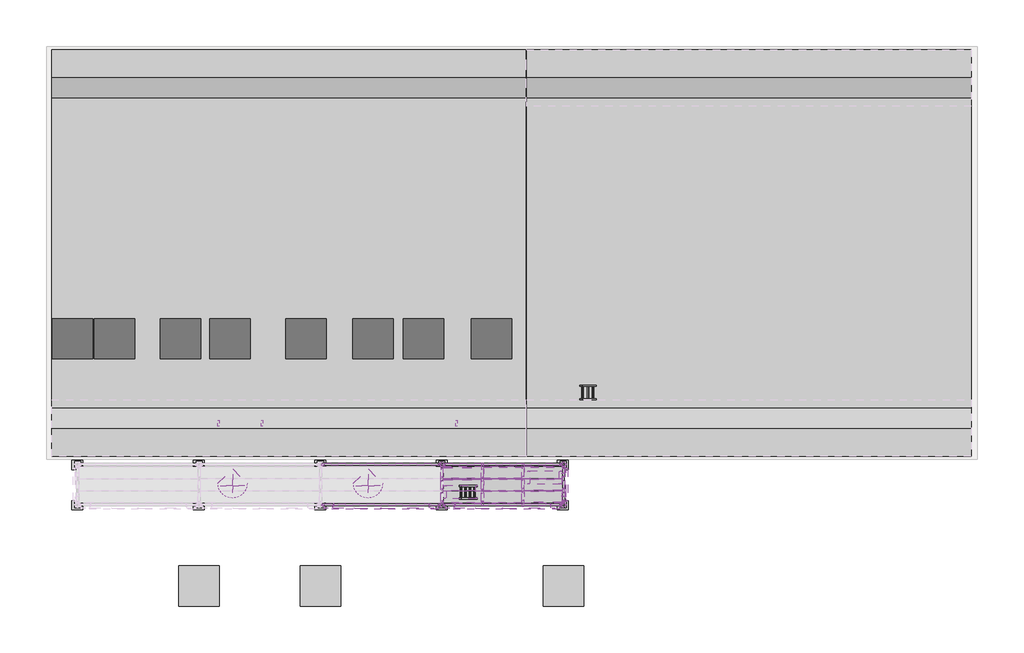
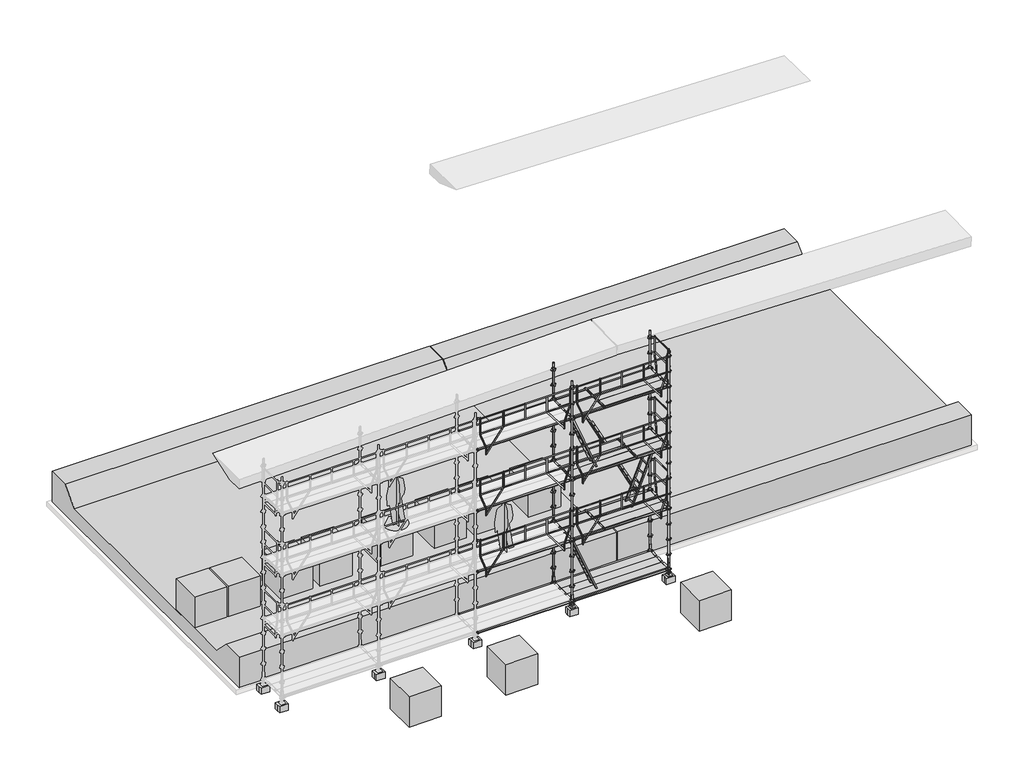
# One storey, part 2 of 2: 110 proxies.
"""IFC4 building model written with IfcOpenShell, lengths in millimetres."""

from ifc_helpers import new_model, si_unit, origin, place, context, project, spatial, transform, mapped, element, save
from components import generic_models_23898a6b, generic_models_8fa42f42, generic_models_b355b610, generic_models_7a2b83c8, specialty_equipment_0b5c82ff, specialty_equipment_7a4cda6e, specialty_equipment_5705e18d, specialty_equipment_8377ca54, specialty_equipment_3c3e35c8, entourage_6f5007d1, famille1_9b6e70c5, single_ladder_ebb12d60, ap100_b654b57a, ap200_66a3c585, l100_80f0c97a, l300_ff75a488, p100030_06e32ebb, p200030_875206cd, p300030_d1f45bb2, ti100_9a57c83d, vp_4bdc5f6d

model = new_model("IFC4")

# Units and contexts
model_context = context("Model", 3, world=origin())
ifc_project = project(units=[si_unit("LENGTHUNIT", "METRE", prefix="MILLI")], contexts=[model_context])

# Site, building, storey
site = spatial("IfcSite", under=ifc_project)
building = spatial("IfcBuilding", under=site)
storey = spatial("IfcBuildingStorey", under=building, Name="Niveau bas traverse inférieure", Elevation=0.0)

# Proxies
placement = place(None, origin())
generic_models_shape = generic_models_23898a6b(model_context)
element("IfcBuildingElementProxy", 1, Name="Traverse inférieur avec gousset : Traverse inférieur avec gousset 11.71m", ObjectType="Traverse inférieur avec gousset : Traverse inférieur avec gousset 11.71m", at=placement, inside=storey, context=model_context, shape_type="MappedRepresentation", body=[
    mapped(generic_models_shape, transform((-11710.0, 525.0000072, 0.0), x_axis=(0.0, 1.0, 0.0), y_axis=(-1.0, 0.0, 0.0), z_axis=(0.0, 0.0, 1.0))),
])
generic_models_2_shape = generic_models_8fa42f42(model_context)
element("IfcBuildingElementProxy", 2, Name="Traverse inférieur avec gousset : Traverse inférieur avec gousset 10.99", ObjectType="Traverse inférieur avec gousset : Traverse inférieur avec gousset 10.99", at=placement, inside=storey, context=model_context, shape_type="MappedRepresentation", body=[
    mapped(generic_models_2_shape, transform((20.0, 525.0000072, 0.0), x_axis=(0.0, 1.0, 0.0), y_axis=(-1.0, 0.0, 0.0), z_axis=(0.0, 0.0, 1.0))),
])
generic_models_3_shape = generic_models_b355b610(model_context)
element("IfcBuildingElementProxy", 3, Name="Bouchon de protection : Bouchon de protection", ObjectType="Bouchon de protection : Bouchon de protection", at=placement, inside=storey, context=model_context, shape_type="MappedRepresentation", body=[
    mapped(generic_models_3_shape, transform((-7602.0440211, -3379.3326962, 2917.0026756), x_axis=(1.0, 0.0, 0.0), y_axis=(0.0, 1.0, 0.0), z_axis=(0.0, 0.0, 1.0))),
])
element("IfcBuildingElementProxy", 4, Name="Bouchon de protection : Bouchon de protection", ObjectType="Bouchon de protection : Bouchon de protection", at=placement, inside=storey, context=model_context, shape_type="MappedRepresentation", body=[
    mapped(generic_models_3_shape, transform((-6522.0440211, -3379.3326962, 2917.0026756), x_axis=(1.0, 0.0, 0.0), y_axis=(0.0, 1.0, 0.0), z_axis=(0.0, 0.0, 1.0))),
])
element("IfcBuildingElementProxy", 5, Name="Bouchon de protection : Bouchon de protection", ObjectType="Bouchon de protection : Bouchon de protection", at=placement, inside=storey, context=model_context, shape_type="MappedRepresentation", body=[
    mapped(generic_models_3_shape, transform((-1722.0440211, -3379.3326962, 2917.0026756), x_axis=(1.0, 0.0, 0.0), y_axis=(0.0, 1.0, 0.0), z_axis=(0.0, 0.0, 1.0))),
])
generic_models_4_shape = generic_models_7a2b83c8(model_context)
element("IfcBuildingElementProxy", 6, Name="Camarteaux : Camarteaux", ObjectType="Camarteaux : Camarteaux", at=placement, inside=storey, context=model_context, shape_type="MappedRepresentation", body=[
    mapped(generic_models_4_shape, transform((-8070.8475353, -5699.9999928, -200.0), x_axis=(1.0, 0.0, 0.0), y_axis=(0.0, 1.0, 0.0), z_axis=(0.0, 0.0, 1.0))),
])
element("IfcBuildingElementProxy", 7, Name="Camarteaux : Camarteaux", ObjectType="Camarteaux : Camarteaux", at=placement, inside=storey, context=model_context, shape_type="MappedRepresentation", body=[
    mapped(generic_models_4_shape, transform((-11070.8475353, -5699.9999928, -200.0), x_axis=(1.0, 0.0, 0.0), y_axis=(0.0, 1.0, 0.0), z_axis=(0.0, 0.0, 1.0))),
])
element("IfcBuildingElementProxy", 8, Name="Camarteaux : Camarteaux", ObjectType="Camarteaux : Camarteaux", at=placement, inside=storey, context=model_context, shape_type="MappedRepresentation", body=[
    mapped(generic_models_4_shape, transform((-5070.8475353, -5699.9999928, -200.0), x_axis=(1.0, 0.0, 0.0), y_axis=(0.0, 1.0, 0.0), z_axis=(0.0, 0.0, 1.0))),
])
element("IfcBuildingElementProxy", 9, Name="Camarteaux : Camarteaux", ObjectType="Camarteaux : Camarteaux", at=placement, inside=storey, context=model_context, shape_type="MappedRepresentation", body=[
    mapped(generic_models_4_shape, transform((-2070.8475353, -5699.9999928, -200.0), x_axis=(1.0, 0.0, 0.0), y_axis=(0.0, 1.0, 0.0), z_axis=(0.0, 0.0, 1.0))),
])
element("IfcBuildingElementProxy", 10, Name="Camarteaux : Camarteaux", ObjectType="Camarteaux : Camarteaux", at=placement, inside=storey, context=model_context, shape_type="MappedRepresentation", body=[
    mapped(generic_models_4_shape, transform((929.1524647, -5699.9999928, -200.0), x_axis=(1.0, 0.0, 0.0), y_axis=(0.0, 1.0, 0.0), z_axis=(0.0, 0.0, 1.0))),
])
element("IfcBuildingElementProxy", 11, Name="Camarteaux : Camarteaux", ObjectType="Camarteaux : Camarteaux", at=placement, inside=storey, context=model_context, shape_type="MappedRepresentation", body=[
    mapped(generic_models_4_shape, transform((-11070.8475353, -4699.9999928, -200.0), x_axis=(1.0, 0.0, 0.0), y_axis=(0.0, 1.0, 0.0), z_axis=(0.0, 0.0, 1.0))),
])
element("IfcBuildingElementProxy", 12, Name="Camarteaux : Camarteaux", ObjectType="Camarteaux : Camarteaux", at=placement, inside=storey, context=model_context, shape_type="MappedRepresentation", body=[
    mapped(generic_models_4_shape, transform((-8070.8475353, -4699.9999928, -200.0), x_axis=(1.0, 0.0, 0.0), y_axis=(0.0, 1.0, 0.0), z_axis=(0.0, 0.0, 1.0))),
])
element("IfcBuildingElementProxy", 13, Name="Camarteaux : Camarteaux", ObjectType="Camarteaux : Camarteaux", at=placement, inside=storey, context=model_context, shape_type="MappedRepresentation", body=[
    mapped(generic_models_4_shape, transform((-5070.8475353, -4699.9999928, -200.0), x_axis=(1.0, 0.0, 0.0), y_axis=(0.0, 1.0, 0.0), z_axis=(0.0, 0.0, 1.0))),
])
element("IfcBuildingElementProxy", 14, Name="Camarteaux : Camarteaux", ObjectType="Camarteaux : Camarteaux", at=placement, inside=storey, context=model_context, shape_type="MappedRepresentation", body=[
    mapped(generic_models_4_shape, transform((-2070.8475353, -4699.9999928, -200.0), x_axis=(1.0, 0.0, 0.0), y_axis=(0.0, 1.0, 0.0), z_axis=(0.0, 0.0, 1.0))),
])
element("IfcBuildingElementProxy", 15, Name="Camarteaux : Camarteaux", ObjectType="Camarteaux : Camarteaux", at=placement, inside=storey, context=model_context, shape_type="MappedRepresentation", body=[
    mapped(generic_models_4_shape, transform((929.1524647, -4699.9999928, -200.0), x_axis=(1.0, 0.0, 0.0), y_axis=(0.0, 1.0, 0.0), z_axis=(0.0, 0.0, 1.0))),
])
specialty_equipment_shape = specialty_equipment_0b5c82ff(model_context)
element("IfcBuildingElementProxy", 16, Name="MILLS_ACRAM_EMBASE : Embase", ObjectType="MILLS_ACRAM_EMBASE : Embase", at=placement, inside=storey, context=model_context, shape_type="MappedRepresentation", body=[
    mapped(specialty_equipment_shape, transform((-1991.5690641, -4699.9999928, 185.0), x_axis=(1.0, 0.0, 0.0), y_axis=(0.0, 1.0, 0.0), z_axis=(0.0, 0.0, 1.0))),
])
element("IfcBuildingElementProxy", 17, Name="MILLS_ACRAM_EMBASE : Embase", ObjectType="MILLS_ACRAM_EMBASE : Embase", at=placement, inside=storey, context=model_context, shape_type="MappedRepresentation", body=[
    mapped(specialty_equipment_shape, transform((1008.4309359, -4699.9999928, 185.0), x_axis=(1.0, 0.0, 0.0), y_axis=(0.0, 1.0, 0.0), z_axis=(0.0, 0.0, 1.0))),
])
element("IfcBuildingElementProxy", 18, Name="MILLS_ACRAM_EMBASE : Embase", ObjectType="MILLS_ACRAM_EMBASE : Embase", at=placement, inside=storey, context=model_context, shape_type="MappedRepresentation", body=[
    mapped(specialty_equipment_shape, transform((1008.4309359, -5699.9999928, 185.0), x_axis=(1.0, 0.0, 0.0), y_axis=(0.0, 1.0, 0.0), z_axis=(0.0, 0.0, 1.0))),
])
element("IfcBuildingElementProxy", 19, Name="MILLS_ACRAM_EMBASE : Embase", ObjectType="MILLS_ACRAM_EMBASE : Embase", at=placement, inside=storey, context=model_context, shape_type="MappedRepresentation", body=[
    mapped(specialty_equipment_shape, transform((-1991.5690641, -5699.9999928, 185.0), x_axis=(1.0, 0.0, 0.0), y_axis=(0.0, 1.0, 0.0), z_axis=(0.0, 0.0, 1.0))),
])
specialty_equipment_2_shape = specialty_equipment_7a4cda6e(model_context)
element("IfcBuildingElementProxy", 20, Name="MILLS_ACRAM_CADRE_A_TRAPPE : trappe", ObjectType="MILLS_ACRAM_CADRE_A_TRAPPE : trappe", at=placement, inside=storey, context=model_context, shape_type="MappedRepresentation", body=[
    mapped(specialty_equipment_2_shape, transform((-1991.5690641, -5695.9907516, 2189.0), x_axis=(1.0, 0.0, 0.0), y_axis=(0.0, 1.0, 0.0), z_axis=(0.0, 0.0, 1.0))),
])
element("IfcBuildingElementProxy", 21, Name="MILLS_ACRAM_CADRE_A_TRAPPE : trappe", ObjectType="MILLS_ACRAM_CADRE_A_TRAPPE : trappe", at=placement, inside=storey, context=model_context, shape_type="MappedRepresentation", body=[
    mapped(specialty_equipment_2_shape, transform((849.8739935, -4714.9999928, 4189.0), x_axis=(-1.0, 0.0, 0.0), y_axis=(0.0, -1.0, 0.0), z_axis=(0.0, 0.0, 1.0))),
])
element("IfcBuildingElementProxy", 22, Name="MILLS_ACRAM_CADRE_A_TRAPPE : trappe", ObjectType="MILLS_ACRAM_CADRE_A_TRAPPE : trappe", at=placement, inside=storey, context=model_context, shape_type="MappedRepresentation", body=[
    mapped(specialty_equipment_2_shape, transform((-1991.5832772, -5689.9999928, 6189.0), x_axis=(1.0, 0.0, 0.0), y_axis=(0.0, 1.0, 0.0), z_axis=(0.0, 0.0, 1.0))),
])
specialty_equipment_3_shape = specialty_equipment_5705e18d(model_context)
element("IfcBuildingElementProxy", 23, Name="MILLS_ACRAM_ECHELLE_210 : echelle210", ObjectType="MILLS_ACRAM_ECHELLE_210 : echelle210", at=placement, inside=storey, context=model_context, shape_type="MappedRepresentation", body=[
    mapped(specialty_equipment_3_shape, transform((-2082.4389773, -5695.9907516, 2189.0), x_axis=(1.0, 0.0, 0.0), y_axis=(0.0, 1.0, 0.0), z_axis=(0.0, 0.0, 1.0))),
])
element("IfcBuildingElementProxy", 24, Name="MILLS_ACRAM_ECHELLE_210 : echelle210", ObjectType="MILLS_ACRAM_ECHELLE_210 : echelle210", at=placement, inside=storey, context=model_context, shape_type="MappedRepresentation", body=[
    mapped(specialty_equipment_3_shape, transform((940.7439066, -4714.9999928, 4189.0), x_axis=(-1.0, 0.0, 0.0), y_axis=(0.0, -1.0, 0.0), z_axis=(0.0, 0.0, 1.0))),
])
element("IfcBuildingElementProxy", 25, Name="MILLS_ACRAM_ECHELLE_210 : echelle210", ObjectType="MILLS_ACRAM_ECHELLE_210 : echelle210", at=placement, inside=storey, context=model_context, shape_type="MappedRepresentation", body=[
    mapped(specialty_equipment_3_shape, transform((-2082.4531904, -5689.9999928, 6189.0), x_axis=(1.0, 0.0, 0.0), y_axis=(0.0, 1.0, 0.0), z_axis=(0.0, 0.0, 1.0))),
])
specialty_equipment_4_shape = specialty_equipment_8377ca54(model_context)
element("IfcBuildingElementProxy", 26, Name="MILLS_TOEC_GARDE_CORPS_MDS : GCMDS300EE", ObjectType="MILLS_TOEC_GARDE_CORPS_MDS : GCMDS300EE", at=placement, inside=storey, context=model_context, shape_type="MappedRepresentation", body=[
    mapped(specialty_equipment_4_shape, transform((-1865.8409084, -5688.8999928, 3175.0), x_axis=(1.0, 0.0, 0.0), y_axis=(0.0, 1.0, 0.0), z_axis=(0.0, 0.0, 1.0))),
])
element("IfcBuildingElementProxy", 27, Name="MILLS_TOEC_GARDE_CORPS_MDS : GCMDS300EE", ObjectType="MILLS_TOEC_GARDE_CORPS_MDS : GCMDS300EE", at=placement, inside=storey, context=model_context, shape_type="MappedRepresentation", body=[
    mapped(specialty_equipment_4_shape, transform((1134.1733048, -5688.8999928, 3175.0), x_axis=(1.0, 0.0, 0.0), y_axis=(0.0, 1.0, 0.0), z_axis=(0.0, 0.0, 1.0))),
])
element("IfcBuildingElementProxy", 28, Name="MILLS_TOEC_GARDE_CORPS_MDS : GCMDS300EE", ObjectType="MILLS_TOEC_GARDE_CORPS_MDS : GCMDS300EE", at=placement, inside=storey, context=model_context, shape_type="MappedRepresentation", body=[
    mapped(specialty_equipment_4_shape, transform((-1865.798269, -5688.8999928, 5175.0), x_axis=(1.0, 0.0, 0.0), y_axis=(0.0, 1.0, 0.0), z_axis=(0.0, 0.0, 1.0))),
])
element("IfcBuildingElementProxy", 29, Name="MILLS_TOEC_GARDE_CORPS_MDS : GCMDS300EE", ObjectType="MILLS_TOEC_GARDE_CORPS_MDS : GCMDS300EE", at=placement, inside=storey, context=model_context, shape_type="MappedRepresentation", body=[
    mapped(specialty_equipment_4_shape, transform((1134.2443703, -5688.8999928, 5175.0), x_axis=(1.0, 0.0, 0.0), y_axis=(0.0, 1.0, 0.0), z_axis=(0.0, 0.0, 1.0))),
])
element("IfcBuildingElementProxy", 30, Name="MILLS_TOEC_GARDE_CORPS_MDS : GCMDS300EE", ObjectType="MILLS_TOEC_GARDE_CORPS_MDS : GCMDS300EE", at=placement, inside=storey, context=model_context, shape_type="MappedRepresentation", body=[
    mapped(specialty_equipment_4_shape, transform((-1865.8551215, -5688.8999928, 7175.0), x_axis=(1.0, 0.0, 0.0), y_axis=(0.0, 1.0, 0.0), z_axis=(0.0, 0.0, 1.0))),
])
element("IfcBuildingElementProxy", 31, Name="MILLS_TOEC_GARDE_CORPS_MDS : GCMDS300EE", ObjectType="MILLS_TOEC_GARDE_CORPS_MDS : GCMDS300EE", at=placement, inside=storey, context=model_context, shape_type="MappedRepresentation", body=[
    mapped(specialty_equipment_4_shape, transform((1134.1448785, -5688.8999928, 7175.0), x_axis=(1.0, 0.0, 0.0), y_axis=(0.0, 1.0, 0.0), z_axis=(0.0, 0.0, 1.0))),
])
specialty_equipment_5_shape = specialty_equipment_3c3e35c8(model_context)
element("IfcBuildingElementProxy", 32, Name="MILLS_TOEC_GARDE_CORPS_MDS : GCMDS100EE", ObjectType="MILLS_TOEC_GARDE_CORPS_MDS : GCMDS100EE", at=placement, inside=storey, context=model_context, shape_type="MappedRepresentation", body=[
    mapped(specialty_equipment_5_shape, transform((918.0524647, -2494.9791527, 3175.0), x_axis=(0.0, 1.0, 0.0), y_axis=(-1.0, 0.0, 0.0), z_axis=(0.0, 0.0, 1.0))),
])
element("IfcBuildingElementProxy", 33, Name="MILLS_TOEC_GARDE_CORPS_MDS : GCMDS100EE", ObjectType="MILLS_TOEC_GARDE_CORPS_MDS : GCMDS100EE", at=placement, inside=storey, context=model_context, shape_type="MappedRepresentation", body=[
    mapped(specialty_equipment_5_shape, transform((918.0382516, -2494.9791527, 5175.0), x_axis=(0.0, 1.0, 0.0), y_axis=(-1.0, 0.0, 0.0), z_axis=(0.0, 0.0, 1.0))),
])
element("IfcBuildingElementProxy", 34, Name="MILLS_TOEC_GARDE_CORPS_MDS : GCMDS100EE", ObjectType="MILLS_TOEC_GARDE_CORPS_MDS : GCMDS100EE", at=placement, inside=storey, context=model_context, shape_type="MappedRepresentation", body=[
    mapped(specialty_equipment_5_shape, transform((918.0382516, -2494.9791527, 7175.0), x_axis=(0.0, 1.0, 0.0), y_axis=(-1.0, 0.0, 0.0), z_axis=(0.0, 0.0, 1.0))),
])
entourage_shape = entourage_6f5007d1(model_context)
element("IfcBuildingElementProxy", 35, Name="RPC Homme : Alex", ObjectType="RPC Homme : Alex", at=placement, inside=storey, context=model_context, shape_type="MappedRepresentation", body=[
    mapped(entourage_shape, transform((-7245.3936888, -5170.1799631, 4245.0), x_axis=(1.0, 0.0, 0.0), y_axis=(0.0, 1.0, 0.0), z_axis=(0.0, 0.0, 1.0))),
])
element("IfcBuildingElementProxy", 36, Name="RPC Homme : Alex", ObjectType="RPC Homme : Alex", at=placement, inside=storey, context=model_context, shape_type="MappedRepresentation", body=[
    mapped(entourage_shape, transform((-3896.5936888, -5170.1799631, 2209.3393401), x_axis=(1.0, 0.0, 0.0), y_axis=(0.0, 1.0, 0.0), z_axis=(0.0, 0.0, 1.0))),
])
famille1_shape = famille1_9b6e70c5(model_context)
element("IfcBuildingElementProxy", 37, Name="Famille1 : Lest béton", ObjectType="Famille1 : Lest béton", at=placement, inside=storey, context=model_context, shape_type="MappedRepresentation", body=[
    mapped(famille1_shape, transform((-673.0931597, -1499.9999928, 500.0), x_axis=(1.0, 0.0, 0.0), y_axis=(0.0, 1.0, 0.0), z_axis=(0.0, 0.0, 1.0))),
])
element("IfcBuildingElementProxy", 38, Name="Famille1 : Lest béton", ObjectType="Famille1 : Lest béton", at=placement, inside=storey, context=model_context, shape_type="MappedRepresentation", body=[
    mapped(famille1_shape, transform((-2356.0538432, -1499.9999928, 500.0), x_axis=(1.0, 0.0, 0.0), y_axis=(0.0, 1.0, 0.0), z_axis=(0.0, 0.0, 1.0))),
])
element("IfcBuildingElementProxy", 39, Name="Famille1 : Lest béton", ObjectType="Famille1 : Lest béton", at=placement, inside=storey, context=model_context, shape_type="MappedRepresentation", body=[
    mapped(famille1_shape, transform((-3603.0538432, -1499.9999928, 500.0), x_axis=(1.0, 0.0, 0.0), y_axis=(0.0, 1.0, 0.0), z_axis=(0.0, 0.0, 1.0))),
])
element("IfcBuildingElementProxy", 40, Name="Famille1 : Lest béton", ObjectType="Famille1 : Lest béton", at=placement, inside=storey, context=model_context, shape_type="MappedRepresentation", body=[
    mapped(famille1_shape, transform((-5261.0538432, -1499.9999928, 500.0), x_axis=(1.0, 0.0, 0.0), y_axis=(0.0, 1.0, 0.0), z_axis=(0.0, 0.0, 1.0))),
])
element("IfcBuildingElementProxy", 41, Name="Famille1 : Lest béton", ObjectType="Famille1 : Lest béton", at=placement, inside=storey, context=model_context, shape_type="MappedRepresentation", body=[
    mapped(famille1_shape, transform((-7143.0538432, -1499.9999928, 500.0), x_axis=(1.0, 0.0, 0.0), y_axis=(0.0, 1.0, 0.0), z_axis=(0.0, 0.0, 1.0))),
])
element("IfcBuildingElementProxy", 42, Name="Famille1 : Lest béton", ObjectType="Famille1 : Lest béton", at=placement, inside=storey, context=model_context, shape_type="MappedRepresentation", body=[
    mapped(famille1_shape, transform((-8363.0538432, -1499.9999928, 500.0), x_axis=(1.0, 0.0, 0.0), y_axis=(0.0, 1.0, 0.0), z_axis=(0.0, 0.0, 1.0))),
])
element("IfcBuildingElementProxy", 43, Name="Famille1 : Lest béton", ObjectType="Famille1 : Lest béton", at=placement, inside=storey, context=model_context, shape_type="MappedRepresentation", body=[
    mapped(famille1_shape, transform((-9991.0538432, -1499.9999928, 500.0), x_axis=(1.0, 0.0, 0.0), y_axis=(0.0, 1.0, 0.0), z_axis=(0.0, 0.0, 1.0))),
])
element("IfcBuildingElementProxy", 44, Name="Famille1 : Lest béton", ObjectType="Famille1 : Lest béton", at=placement, inside=storey, context=model_context, shape_type="MappedRepresentation", body=[
    mapped(famille1_shape, transform((-11031.0538432, -1499.9999928, 500.0), x_axis=(1.0, 0.0, 0.0), y_axis=(0.0, 1.0, 0.0), z_axis=(0.0, 0.0, 1.0))),
])
element("IfcBuildingElementProxy", 45, Name="Famille1 : Lest béton", ObjectType="Famille1 : Lest béton", at=placement, inside=storey, context=model_context, shape_type="MappedRepresentation", body=[
    mapped(famille1_shape, transform((1097.2417812, -7605.2217645, -150.0), x_axis=(1.0, 0.0, 0.0), y_axis=(0.0, 1.0, 0.0), z_axis=(0.0, 0.0, 1.0))),
])
element("IfcBuildingElementProxy", 46, Name="Famille1 : Lest béton", ObjectType="Famille1 : Lest béton", at=placement, inside=storey, context=model_context, shape_type="MappedRepresentation", body=[
    mapped(famille1_shape, transform((-4902.7582188, -7605.2217645, -150.0), x_axis=(1.0, 0.0, 0.0), y_axis=(0.0, 1.0, 0.0), z_axis=(0.0, 0.0, 1.0))),
])
element("IfcBuildingElementProxy", 47, Name="Famille1 : Lest béton", ObjectType="Famille1 : Lest béton", at=placement, inside=storey, context=model_context, shape_type="MappedRepresentation", body=[
    mapped(famille1_shape, transform((-7902.7582188, -7605.2217645, -150.0), x_axis=(1.0, 0.0, 0.0), y_axis=(0.0, 1.0, 0.0), z_axis=(0.0, 0.0, 1.0))),
])
single_ladder_shape = single_ladder_ebb12d60(model_context)
element("IfcBuildingElementProxy", 48, Name="Echelle : Single Ladder", ObjectType="Echelle : Single Ladder", at=placement, inside=storey, context=model_context, shape_type="MappedRepresentation", body=[
    mapped(single_ladder_shape, transform((1735.2581611, -2746.0118169, 473.5), x_axis=(-0.45797210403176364, 0.0, 0.8889665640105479), y_axis=(-0.8889665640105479, 0.0, -0.45797210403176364), z_axis=(0.0, -1.0, 0.0))),
])
ap100_shape = ap100_b654b57a(model_context)
element("IfcBuildingElementProxy", 49, Name="MILLS_ACRAM_POTEAUX  : ap100", ObjectType="MILLS_ACRAM_POTEAUX  : ap100", at=placement, inside=storey, context=model_context, shape_type="MappedRepresentation", body=[
    mapped(ap100_shape, transform((-1991.5832772, -5699.9999928, 6185.0), x_axis=(1.0, 0.0, 0.0), y_axis=(0.0, 1.0, 0.0), z_axis=(0.0, 0.0, 1.0))),
])
element("IfcBuildingElementProxy", 50, Name="MILLS_ACRAM_POTEAUX  : ap100", ObjectType="MILLS_ACRAM_POTEAUX  : ap100", at=placement, inside=storey, context=model_context, shape_type="MappedRepresentation", body=[
    mapped(ap100_shape, transform((-1991.5832772, -4699.9999928, 6185.0), x_axis=(1.0, 0.0, 0.0), y_axis=(0.0, 1.0, 0.0), z_axis=(0.0, 0.0, 1.0))),
])
element("IfcBuildingElementProxy", 51, Name="MILLS_ACRAM_POTEAUX  : ap100", ObjectType="MILLS_ACRAM_POTEAUX  : ap100", at=placement, inside=storey, context=model_context, shape_type="MappedRepresentation", body=[
    mapped(ap100_shape, transform((1008.4593622, -5699.9999928, 6185.0), x_axis=(1.0, 0.0, 0.0), y_axis=(0.0, 1.0, 0.0), z_axis=(0.0, 0.0, 1.0))),
])
element("IfcBuildingElementProxy", 52, Name="MILLS_ACRAM_POTEAUX  : ap100", ObjectType="MILLS_ACRAM_POTEAUX  : ap100", at=placement, inside=storey, context=model_context, shape_type="MappedRepresentation", body=[
    mapped(ap100_shape, transform((1008.4593622, -4699.9999928, 6185.0), x_axis=(1.0, 0.0, 0.0), y_axis=(0.0, 1.0, 0.0), z_axis=(0.0, 0.0, 1.0))),
])
ap200_shape = ap200_66a3c585(model_context)
element("IfcBuildingElementProxy", 53, Name="MILLS_ACRAM_POTEAUX  : ap200", ObjectType="MILLS_ACRAM_POTEAUX  : ap200", at=placement, inside=storey, context=model_context, shape_type="MappedRepresentation", body=[
    mapped(ap200_shape, transform((-1991.5832772, -4699.9999928, 185.0), x_axis=(1.0, 0.0, 0.0), y_axis=(0.0, 1.0, 0.0), z_axis=(0.0, 0.0, 1.0))),
])
element("IfcBuildingElementProxy", 54, Name="MILLS_ACRAM_POTEAUX  : ap200", ObjectType="MILLS_ACRAM_POTEAUX  : ap200", at=placement, inside=storey, context=model_context, shape_type="MappedRepresentation", body=[
    mapped(ap200_shape, transform((-1991.5832772, -5699.9999928, 185.0), x_axis=(1.0, 0.0, 0.0), y_axis=(0.0, 1.0, 0.0), z_axis=(0.0, 0.0, 1.0))),
])
element("IfcBuildingElementProxy", 55, Name="MILLS_ACRAM_POTEAUX  : ap200", ObjectType="MILLS_ACRAM_POTEAUX  : ap200", at=placement, inside=storey, context=model_context, shape_type="MappedRepresentation", body=[
    mapped(ap200_shape, transform((1008.4309359, -5699.9999928, 185.0), x_axis=(1.0, 0.0, 0.0), y_axis=(0.0, 1.0, 0.0), z_axis=(0.0, 0.0, 1.0))),
])
element("IfcBuildingElementProxy", 56, Name="MILLS_ACRAM_POTEAUX  : ap200", ObjectType="MILLS_ACRAM_POTEAUX  : ap200", at=placement, inside=storey, context=model_context, shape_type="MappedRepresentation", body=[
    mapped(ap200_shape, transform((1008.4309359, -4699.9999928, 185.0), x_axis=(1.0, 0.0, 0.0), y_axis=(0.0, 1.0, 0.0), z_axis=(0.0, 0.0, 1.0))),
])
element("IfcBuildingElementProxy", 57, Name="MILLS_ACRAM_POTEAUX  : ap200", ObjectType="MILLS_ACRAM_POTEAUX  : ap200", at=placement, inside=storey, context=model_context, shape_type="MappedRepresentation", body=[
    mapped(ap200_shape, transform((-1991.554851, -4699.9999928, 2185.0), x_axis=(1.0, 0.0, 0.0), y_axis=(0.0, 1.0, 0.0), z_axis=(0.0, 0.0, 1.0))),
])
element("IfcBuildingElementProxy", 58, Name="MILLS_ACRAM_POTEAUX  : ap200", ObjectType="MILLS_ACRAM_POTEAUX  : ap200", at=placement, inside=storey, context=model_context, shape_type="MappedRepresentation", body=[
    mapped(ap200_shape, transform((1008.4309359, -4699.9999928, 2185.0), x_axis=(1.0, 0.0, 0.0), y_axis=(0.0, 1.0, 0.0), z_axis=(0.0, 0.0, 1.0))),
])
element("IfcBuildingElementProxy", 59, Name="MILLS_ACRAM_POTEAUX  : ap200", ObjectType="MILLS_ACRAM_POTEAUX  : ap200", at=placement, inside=storey, context=model_context, shape_type="MappedRepresentation", body=[
    mapped(ap200_shape, transform((1008.4309359, -5699.9999928, 2185.0), x_axis=(1.0, 0.0, 0.0), y_axis=(0.0, 1.0, 0.0), z_axis=(0.0, 0.0, 1.0))),
])
element("IfcBuildingElementProxy", 60, Name="MILLS_ACRAM_POTEAUX  : ap200", ObjectType="MILLS_ACRAM_POTEAUX  : ap200", at=placement, inside=storey, context=model_context, shape_type="MappedRepresentation", body=[
    mapped(ap200_shape, transform((-1991.5832772, -5699.9999928, 2185.0), x_axis=(1.0, 0.0, 0.0), y_axis=(0.0, 1.0, 0.0), z_axis=(0.0, 0.0, 1.0))),
])
element("IfcBuildingElementProxy", 61, Name="MILLS_ACRAM_POTEAUX  : ap200", ObjectType="MILLS_ACRAM_POTEAUX  : ap200", at=placement, inside=storey, context=model_context, shape_type="MappedRepresentation", body=[
    mapped(ap200_shape, transform((-1991.554851, -5699.9999928, 4185.0), x_axis=(1.0, 0.0, 0.0), y_axis=(0.0, 1.0, 0.0), z_axis=(0.0, 0.0, 1.0))),
])
element("IfcBuildingElementProxy", 62, Name="MILLS_ACRAM_POTEAUX  : ap200", ObjectType="MILLS_ACRAM_POTEAUX  : ap200", at=placement, inside=storey, context=model_context, shape_type="MappedRepresentation", body=[
    mapped(ap200_shape, transform((-1991.554851, -4699.9999928, 4185.0), x_axis=(1.0, 0.0, 0.0), y_axis=(0.0, 1.0, 0.0), z_axis=(0.0, 0.0, 1.0))),
])
element("IfcBuildingElementProxy", 63, Name="MILLS_ACRAM_POTEAUX  : ap200", ObjectType="MILLS_ACRAM_POTEAUX  : ap200", at=placement, inside=storey, context=model_context, shape_type="MappedRepresentation", body=[
    mapped(ap200_shape, transform((1008.4593622, -5699.9999928, 4185.0), x_axis=(1.0, 0.0, 0.0), y_axis=(0.0, 1.0, 0.0), z_axis=(0.0, 0.0, 1.0))),
])
element("IfcBuildingElementProxy", 64, Name="MILLS_ACRAM_POTEAUX  : ap200", ObjectType="MILLS_ACRAM_POTEAUX  : ap200", at=placement, inside=storey, context=model_context, shape_type="MappedRepresentation", body=[
    mapped(ap200_shape, transform((1008.4593622, -4699.9999928, 4185.0), x_axis=(1.0, 0.0, 0.0), y_axis=(0.0, 1.0, 0.0), z_axis=(0.0, 0.0, 1.0))),
])
l100_shape = l100_80f0c97a(model_context)
element("IfcBuildingElementProxy", 65, Name="MILLS_ACRAM_LISSES : l100", ObjectType="MILLS_ACRAM_LISSES : l100", at=placement, inside=storey, context=model_context, shape_type="MappedRepresentation", body=[
    mapped(l100_shape, transform((-2070.8475353, -4193.4700293, 185.0), x_axis=(0.0, 1.0, 0.0), y_axis=(-1.0, 0.0, 0.0), z_axis=(0.0, 0.0, 1.0))),
])
element("IfcBuildingElementProxy", 66, Name="MILLS_ACRAM_LISSES : l100", ObjectType="MILLS_ACRAM_LISSES : l100", at=placement, inside=storey, context=model_context, shape_type="MappedRepresentation", body=[
    mapped(l100_shape, transform((929.1524647, -4193.4700293, 185.0), x_axis=(0.0, 1.0, 0.0), y_axis=(-1.0, 0.0, 0.0), z_axis=(0.0, 0.0, 1.0))),
])
element("IfcBuildingElementProxy", 67, Name="MILLS_ACRAM_LISSES : l100", ObjectType="MILLS_ACRAM_LISSES : l100", at=placement, inside=storey, context=model_context, shape_type="MappedRepresentation", body=[
    mapped(l100_shape, transform((-2070.8475353, -4193.4700293, 2185.0), x_axis=(0.0, 1.0, 0.0), y_axis=(-1.0, 0.0, 0.0), z_axis=(0.0, 0.0, 1.0))),
])
element("IfcBuildingElementProxy", 68, Name="MILLS_ACRAM_LISSES : l100", ObjectType="MILLS_ACRAM_LISSES : l100", at=placement, inside=storey, context=model_context, shape_type="MappedRepresentation", body=[
    mapped(l100_shape, transform((929.1524647, -4193.4700293, 2185.0), x_axis=(0.0, 1.0, 0.0), y_axis=(-1.0, 0.0, 0.0), z_axis=(0.0, 0.0, 1.0))),
])
element("IfcBuildingElementProxy", 69, Name="MILLS_ACRAM_LISSES : l100", ObjectType="MILLS_ACRAM_LISSES : l100", at=placement, inside=storey, context=model_context, shape_type="MappedRepresentation", body=[
    mapped(l100_shape, transform((-2070.8475353, -4193.4700293, 4185.0), x_axis=(0.0, 1.0, 0.0), y_axis=(-1.0, 0.0, 0.0), z_axis=(0.0, 0.0, 1.0))),
])
element("IfcBuildingElementProxy", 70, Name="MILLS_ACRAM_LISSES : l100", ObjectType="MILLS_ACRAM_LISSES : l100", at=placement, inside=storey, context=model_context, shape_type="MappedRepresentation", body=[
    mapped(l100_shape, transform((929.1382516, -4193.4700293, 4185.0), x_axis=(0.0, 1.0, 0.0), y_axis=(-1.0, 0.0, 0.0), z_axis=(0.0, 0.0, 1.0))),
])
element("IfcBuildingElementProxy", 71, Name="MILLS_ACRAM_LISSES : l100", ObjectType="MILLS_ACRAM_LISSES : l100", at=placement, inside=storey, context=model_context, shape_type="MappedRepresentation", body=[
    mapped(l100_shape, transform((929.1808909, -4193.4700293, 6185.0), x_axis=(0.0, 1.0, 0.0), y_axis=(-1.0, 0.0, 0.0), z_axis=(0.0, 0.0, 1.0))),
])
element("IfcBuildingElementProxy", 72, Name="MILLS_ACRAM_LISSES : l100", ObjectType="MILLS_ACRAM_LISSES : l100", at=placement, inside=storey, context=model_context, shape_type="MappedRepresentation", body=[
    mapped(l100_shape, transform((-2070.8759616, -4193.4700293, 6185.0), x_axis=(0.0, 1.0, 0.0), y_axis=(-1.0, 0.0, 0.0), z_axis=(0.0, 0.0, 1.0))),
])
l300_shape = l300_ff75a488(model_context)
element("IfcBuildingElementProxy", 73, Name="MILLS_ACRAM_LISSES : l300", ObjectType="MILLS_ACRAM_LISSES : l300", at=placement, inside=storey, context=model_context, shape_type="MappedRepresentation", body=[
    mapped(l300_shape, transform((-3564.3033587, -5699.9999928, 185.0), x_axis=(1.0, 0.0, 0.0), y_axis=(0.0, 1.0, 0.0), z_axis=(0.0, 0.0, 1.0))),
])
element("IfcBuildingElementProxy", 74, Name="MILLS_ACRAM_LISSES : l300", ObjectType="MILLS_ACRAM_LISSES : l300", at=placement, inside=storey, context=model_context, shape_type="MappedRepresentation", body=[
    mapped(l300_shape, transform((-564.3033587, -5699.9999928, 185.0), x_axis=(1.0, 0.0, 0.0), y_axis=(0.0, 1.0, 0.0), z_axis=(0.0, 0.0, 1.0))),
])
element("IfcBuildingElementProxy", 75, Name="MILLS_ACRAM_LISSES : l300", ObjectType="MILLS_ACRAM_LISSES : l300", at=placement, inside=storey, context=model_context, shape_type="MappedRepresentation", body=[
    mapped(l300_shape, transform((-564.3033587, -4699.9999928, 185.0), x_axis=(1.0, 0.0, 0.0), y_axis=(0.0, 1.0, 0.0), z_axis=(0.0, 0.0, 1.0))),
])
element("IfcBuildingElementProxy", 76, Name="MILLS_ACRAM_LISSES : l300", ObjectType="MILLS_ACRAM_LISSES : l300", at=placement, inside=storey, context=model_context, shape_type="MappedRepresentation", body=[
    mapped(l300_shape, transform((-3564.3033587, -4699.9999928, 185.0), x_axis=(1.0, 0.0, 0.0), y_axis=(0.0, 1.0, 0.0), z_axis=(0.0, 0.0, 1.0))),
])
element("IfcBuildingElementProxy", 77, Name="MILLS_ACRAM_LISSES : l300", ObjectType="MILLS_ACRAM_LISSES : l300", at=placement, inside=storey, context=model_context, shape_type="MappedRepresentation", body=[
    mapped(l300_shape, transform((-3564.3033587, -5699.9999928, 2185.0), x_axis=(1.0, 0.0, 0.0), y_axis=(0.0, 1.0, 0.0), z_axis=(0.0, 0.0, 1.0))),
])
element("IfcBuildingElementProxy", 78, Name="MILLS_ACRAM_LISSES : l300", ObjectType="MILLS_ACRAM_LISSES : l300", at=placement, inside=storey, context=model_context, shape_type="MappedRepresentation", body=[
    mapped(l300_shape, transform((-564.3033587, -5699.9999928, 2185.0), x_axis=(1.0, 0.0, 0.0), y_axis=(0.0, 1.0, 0.0), z_axis=(0.0, 0.0, 1.0))),
])
element("IfcBuildingElementProxy", 79, Name="MILLS_ACRAM_LISSES : l300", ObjectType="MILLS_ACRAM_LISSES : l300", at=placement, inside=storey, context=model_context, shape_type="MappedRepresentation", body=[
    mapped(l300_shape, transform((-564.3033587, -4699.9999928, 2185.0), x_axis=(1.0, 0.0, 0.0), y_axis=(0.0, 1.0, 0.0), z_axis=(0.0, 0.0, 1.0))),
])
element("IfcBuildingElementProxy", 80, Name="MILLS_ACRAM_LISSES : l300", ObjectType="MILLS_ACRAM_LISSES : l300", at=placement, inside=storey, context=model_context, shape_type="MappedRepresentation", body=[
    mapped(l300_shape, transform((-3564.3033587, -4699.9999928, 2185.0), x_axis=(1.0, 0.0, 0.0), y_axis=(0.0, 1.0, 0.0), z_axis=(0.0, 0.0, 1.0))),
])
element("IfcBuildingElementProxy", 81, Name="MILLS_ACRAM_LISSES : l300", ObjectType="MILLS_ACRAM_LISSES : l300", at=placement, inside=storey, context=model_context, shape_type="MappedRepresentation", body=[
    mapped(l300_shape, transform((-3564.3033587, -4699.9999928, 4185.0), x_axis=(1.0, 0.0, 0.0), y_axis=(0.0, 1.0, 0.0), z_axis=(0.0, 0.0, 1.0))),
])
element("IfcBuildingElementProxy", 82, Name="MILLS_ACRAM_LISSES : l300", ObjectType="MILLS_ACRAM_LISSES : l300", at=placement, inside=storey, context=model_context, shape_type="MappedRepresentation", body=[
    mapped(l300_shape, transform((-564.3323604, -4699.9999928, 4185.0), x_axis=(1.0, 0.0, 0.0), y_axis=(0.0, 1.0, 0.0), z_axis=(0.0, 0.0, 1.0))),
])
element("IfcBuildingElementProxy", 83, Name="MILLS_ACRAM_LISSES : l300", ObjectType="MILLS_ACRAM_LISSES : l300", at=placement, inside=storey, context=model_context, shape_type="MappedRepresentation", body=[
    mapped(l300_shape, transform((-564.3323604, -5699.9999928, 4185.0), x_axis=(1.0, 0.0, 0.0), y_axis=(0.0, 1.0, 0.0), z_axis=(0.0, 0.0, 1.0))),
])
element("IfcBuildingElementProxy", 84, Name="MILLS_ACRAM_LISSES : l300", ObjectType="MILLS_ACRAM_LISSES : l300", at=placement, inside=storey, context=model_context, shape_type="MappedRepresentation", body=[
    mapped(l300_shape, transform((-3564.3033587, -5699.9999928, 4185.0), x_axis=(1.0, 0.0, 0.0), y_axis=(0.0, 1.0, 0.0), z_axis=(0.0, 0.0, 1.0))),
])
element("IfcBuildingElementProxy", 85, Name="MILLS_ACRAM_LISSES : l300", ObjectType="MILLS_ACRAM_LISSES : l300", at=placement, inside=storey, context=model_context, shape_type="MappedRepresentation", body=[
    mapped(l300_shape, transform((-3564.331785, -4699.9916544, 6185.0), x_axis=(1.0, 0.0, 0.0), y_axis=(0.0, 1.0, 0.0), z_axis=(0.0, 0.0, 1.0))),
])
element("IfcBuildingElementProxy", 86, Name="MILLS_ACRAM_LISSES : l300", ObjectType="MILLS_ACRAM_LISSES : l300", at=placement, inside=storey, context=model_context, shape_type="MappedRepresentation", body=[
    mapped(l300_shape, transform((-564.407582, -4699.9916544, 6185.0), x_axis=(1.0, 0.0, 0.0), y_axis=(0.0, 1.0, 0.0), z_axis=(0.0, 0.0, 1.0))),
])
element("IfcBuildingElementProxy", 87, Name="MILLS_ACRAM_LISSES : l300", ObjectType="MILLS_ACRAM_LISSES : l300", at=placement, inside=storey, context=model_context, shape_type="MappedRepresentation", body=[
    mapped(l300_shape, transform((-564.407582, -5699.9916544, 6185.0), x_axis=(1.0, 0.0, 0.0), y_axis=(0.0, 1.0, 0.0), z_axis=(0.0, 0.0, 1.0))),
])
element("IfcBuildingElementProxy", 88, Name="MILLS_ACRAM_LISSES : l300", ObjectType="MILLS_ACRAM_LISSES : l300", at=placement, inside=storey, context=model_context, shape_type="MappedRepresentation", body=[
    mapped(l300_shape, transform((-3564.4360082, -5699.9916544, 6185.0), x_axis=(1.0, 0.0, 0.0), y_axis=(0.0, 1.0, 0.0), z_axis=(0.0, 0.0, 1.0))),
])
p100030_shape = p100030_06e32ebb(model_context)
element("IfcBuildingElementProxy", 89, Name="MILLS_ACRAM_PLANCHER_ACIER : p100030", ObjectType="MILLS_ACRAM_PLANCHER_ACIER : p100030", at=placement, inside=storey, context=model_context, shape_type="MappedRepresentation", body=[
    mapped(p100030_shape, transform((-126.4785877, -6142.0131497, 2189.0), x_axis=(1.0, 0.0, 0.0), y_axis=(0.0, 1.0, 0.0), z_axis=(0.0, 0.0, 1.0))),
])
element("IfcBuildingElementProxy", 90, Name="MILLS_ACRAM_PLANCHER_ACIER : p100030", ObjectType="MILLS_ACRAM_PLANCHER_ACIER : p100030", at=placement, inside=storey, context=model_context, shape_type="MappedRepresentation", body=[
    mapped(p100030_shape, transform((-1015.2164829, -4268.9775948, 4189.0), x_axis=(-1.0, 0.0, 0.0), y_axis=(0.0, -1.0, 0.0), z_axis=(0.0, 0.0, 1.0))),
])
element("IfcBuildingElementProxy", 91, Name="MILLS_ACRAM_PLANCHER_ACIER : p100030", ObjectType="MILLS_ACRAM_PLANCHER_ACIER : p100030", at=placement, inside=storey, context=model_context, shape_type="MappedRepresentation", body=[
    mapped(p100030_shape, transform((-126.4928008, -6136.0223908, 6189.0), x_axis=(1.0, 0.0, 0.0), y_axis=(0.0, 1.0, 0.0), z_axis=(0.0, 0.0, 1.0))),
])
p200030_shape = p200030_875206cd(model_context)
element("IfcBuildingElementProxy", 92, Name="MILLS_ACRAM_PLANCHER_ACIER : p200030", ObjectType="MILLS_ACRAM_PLANCHER_ACIER : p200030", at=placement, inside=storey, context=model_context, shape_type="MappedRepresentation", body=[
    mapped(p200030_shape, transform((873.5214123, -6730.0131497, 2189.0), x_axis=(1.0, 0.0, 0.0), y_axis=(0.0, 1.0, 0.0), z_axis=(0.0, 0.0, 1.0))),
])
element("IfcBuildingElementProxy", 93, Name="MILLS_ACRAM_PLANCHER_ACIER : p200030", ObjectType="MILLS_ACRAM_PLANCHER_ACIER : p200030", at=placement, inside=storey, context=model_context, shape_type="MappedRepresentation", body=[
    mapped(p200030_shape, transform((873.5214123, -6430.0131497, 2189.0), x_axis=(1.0, 0.0, 0.0), y_axis=(0.0, 1.0, 0.0), z_axis=(0.0, 0.0, 1.0))),
])
element("IfcBuildingElementProxy", 94, Name="MILLS_ACRAM_PLANCHER_ACIER : p200030", ObjectType="MILLS_ACRAM_PLANCHER_ACIER : p200030", at=placement, inside=storey, context=model_context, shape_type="MappedRepresentation", body=[
    mapped(p200030_shape, transform((873.5214123, -6130.0131497, 2189.0), x_axis=(1.0, 0.0, 0.0), y_axis=(0.0, 1.0, 0.0), z_axis=(0.0, 0.0, 1.0))),
])
element("IfcBuildingElementProxy", 95, Name="MILLS_ACRAM_PLANCHER_ACIER : p200030", ObjectType="MILLS_ACRAM_PLANCHER_ACIER : p200030", at=placement, inside=storey, context=model_context, shape_type="MappedRepresentation", body=[
    mapped(p200030_shape, transform((-2015.2164829, -3680.9775948, 4189.0), x_axis=(-1.0, 0.0, 0.0), y_axis=(0.0, -1.0, 0.0), z_axis=(0.0, 0.0, 1.0))),
])
element("IfcBuildingElementProxy", 96, Name="MILLS_ACRAM_PLANCHER_ACIER : p200030", ObjectType="MILLS_ACRAM_PLANCHER_ACIER : p200030", at=placement, inside=storey, context=model_context, shape_type="MappedRepresentation", body=[
    mapped(p200030_shape, transform((-2015.2164829, -3980.9775948, 4189.0), x_axis=(-1.0, 0.0, 0.0), y_axis=(0.0, -1.0, 0.0), z_axis=(0.0, 0.0, 1.0))),
])
element("IfcBuildingElementProxy", 97, Name="MILLS_ACRAM_PLANCHER_ACIER : p200030", ObjectType="MILLS_ACRAM_PLANCHER_ACIER : p200030", at=placement, inside=storey, context=model_context, shape_type="MappedRepresentation", body=[
    mapped(p200030_shape, transform((-2015.2164829, -4280.9775948, 4189.0), x_axis=(-1.0, 0.0, 0.0), y_axis=(0.0, -1.0, 0.0), z_axis=(0.0, 0.0, 1.0))),
])
element("IfcBuildingElementProxy", 98, Name="MILLS_ACRAM_PLANCHER_ACIER : p200030", ObjectType="MILLS_ACRAM_PLANCHER_ACIER : p200030", at=placement, inside=storey, context=model_context, shape_type="MappedRepresentation", body=[
    mapped(p200030_shape, transform((873.5071992, -6724.0223908, 6189.0), x_axis=(1.0, 0.0, 0.0), y_axis=(0.0, 1.0, 0.0), z_axis=(0.0, 0.0, 1.0))),
])
element("IfcBuildingElementProxy", 99, Name="MILLS_ACRAM_PLANCHER_ACIER : p200030", ObjectType="MILLS_ACRAM_PLANCHER_ACIER : p200030", at=placement, inside=storey, context=model_context, shape_type="MappedRepresentation", body=[
    mapped(p200030_shape, transform((873.5071992, -6424.0223908, 6189.0), x_axis=(1.0, 0.0, 0.0), y_axis=(0.0, 1.0, 0.0), z_axis=(0.0, 0.0, 1.0))),
])
element("IfcBuildingElementProxy", 100, Name="MILLS_ACRAM_PLANCHER_ACIER : p200030", ObjectType="MILLS_ACRAM_PLANCHER_ACIER : p200030", at=placement, inside=storey, context=model_context, shape_type="MappedRepresentation", body=[
    mapped(p200030_shape, transform((873.5071992, -6124.0223908, 6189.0), x_axis=(1.0, 0.0, 0.0), y_axis=(0.0, 1.0, 0.0), z_axis=(0.0, 0.0, 1.0))),
])
p300030_shape = p300030_d1f45bb2(model_context)
element("IfcBuildingElementProxy", 101, Name="MILLS_ACRAM_PLANCHER_ACIER : p300030", ObjectType="MILLS_ACRAM_PLANCHER_ACIER : p300030", at=placement, inside=storey, context=model_context, shape_type="MappedRepresentation", body=[
    mapped(p300030_shape, transform((-126.4785877, -6417.2075684, 189.2), x_axis=(1.0, 0.0, 0.0), y_axis=(0.0, 1.0, 0.0), z_axis=(0.0, 0.0, 1.0))),
])
element("IfcBuildingElementProxy", 102, Name="MILLS_ACRAM_PLANCHER_ACIER : p300030", ObjectType="MILLS_ACRAM_PLANCHER_ACIER : p300030", at=placement, inside=storey, context=model_context, shape_type="MappedRepresentation", body=[
    mapped(p300030_shape, transform((-126.4785877, -6117.2075684, 189.2), x_axis=(1.0, 0.0, 0.0), y_axis=(0.0, 1.0, 0.0), z_axis=(0.0, 0.0, 1.0))),
])
element("IfcBuildingElementProxy", 103, Name="MILLS_ACRAM_PLANCHER_ACIER : p300030", ObjectType="MILLS_ACRAM_PLANCHER_ACIER : p300030", at=placement, inside=storey, context=model_context, shape_type="MappedRepresentation", body=[
    mapped(p300030_shape, transform((-126.4785877, -6717.2075684, 189.2), x_axis=(1.0, 0.0, 0.0), y_axis=(0.0, 1.0, 0.0), z_axis=(0.0, 0.0, 1.0))),
])
ti100_shape = ti100_9a57c83d(model_context)
element("IfcBuildingElementProxy", 104, Name="MILLS_ACRAM_TRAVERSES_INTERMEDIAIRE : ti100", ObjectType="MILLS_ACRAM_TRAVERSES_INTERMEDIAIRE : ti100", at=placement, inside=storey, context=model_context, shape_type="MappedRepresentation", body=[
    mapped(ti100_shape, transform((-1192.6529101, -3180.7735758, 2189.0), x_axis=(1.0, 0.0, 0.0), y_axis=(0.0, 1.0, 0.0), z_axis=(0.0, 0.0, 1.0))),
])
element("IfcBuildingElementProxy", 105, Name="MILLS_ACRAM_TRAVERSES_INTERMEDIAIRE : ti100", ObjectType="MILLS_ACRAM_TRAVERSES_INTERMEDIAIRE : ti100", at=placement, inside=storey, context=model_context, shape_type="MappedRepresentation", body=[
    mapped(ti100_shape, transform((50.9578394, -7230.2171686, 4189.0), x_axis=(-1.0, 0.0, 0.0), y_axis=(0.0, -1.0, 0.0), z_axis=(0.0, 0.0, 1.0))),
])
element("IfcBuildingElementProxy", 106, Name="MILLS_ACRAM_TRAVERSES_INTERMEDIAIRE : ti100", ObjectType="MILLS_ACRAM_TRAVERSES_INTERMEDIAIRE : ti100", at=placement, inside=storey, context=model_context, shape_type="MappedRepresentation", body=[
    mapped(ti100_shape, transform((-1192.6671232, -3174.782817, 6189.0), x_axis=(1.0, 0.0, 0.0), y_axis=(0.0, 1.0, 0.0), z_axis=(0.0, 0.0, 1.0))),
])
vp_shape = vp_4bdc5f6d(model_context)
element("IfcBuildingElementProxy", 107, Name="MILLS_ACRAM_VERIN_DE_PIED : vp", ObjectType="MILLS_ACRAM_VERIN_DE_PIED : vp", at=placement, inside=storey, context=model_context, shape_type="MappedRepresentation", body=[
    mapped(vp_shape, transform((-1645.6752302, -5699.9999928, 0.0), x_axis=(1.0, 0.0, 0.0), y_axis=(0.0, 1.0, 0.0), z_axis=(0.0, 0.0, 1.0))),
])
element("IfcBuildingElementProxy", 108, Name="MILLS_ACRAM_VERIN_DE_PIED : vp", ObjectType="MILLS_ACRAM_VERIN_DE_PIED : vp", at=placement, inside=storey, context=model_context, shape_type="MappedRepresentation", body=[
    mapped(vp_shape, transform((1354.3247698, -5699.9999928, 0.0), x_axis=(1.0, 0.0, 0.0), y_axis=(0.0, 1.0, 0.0), z_axis=(0.0, 0.0, 1.0))),
])
element("IfcBuildingElementProxy", 109, Name="MILLS_ACRAM_VERIN_DE_PIED : vp", ObjectType="MILLS_ACRAM_VERIN_DE_PIED : vp", at=placement, inside=storey, context=model_context, shape_type="MappedRepresentation", body=[
    mapped(vp_shape, transform((-1645.6752302, -4699.9999928, 0.0), x_axis=(1.0, 0.0, 0.0), y_axis=(0.0, 1.0, 0.0), z_axis=(0.0, 0.0, 1.0))),
])
element("IfcBuildingElementProxy", 110, Name="MILLS_ACRAM_VERIN_DE_PIED : vp", ObjectType="MILLS_ACRAM_VERIN_DE_PIED : vp", at=placement, inside=storey, context=model_context, shape_type="MappedRepresentation", body=[
    mapped(vp_shape, transform((1354.3247698, -4699.9999928, 0.0), x_axis=(1.0, 0.0, 0.0), y_axis=(0.0, 1.0, 0.0), z_axis=(0.0, 0.0, 1.0))),
])

save(model, "model.ifc")
